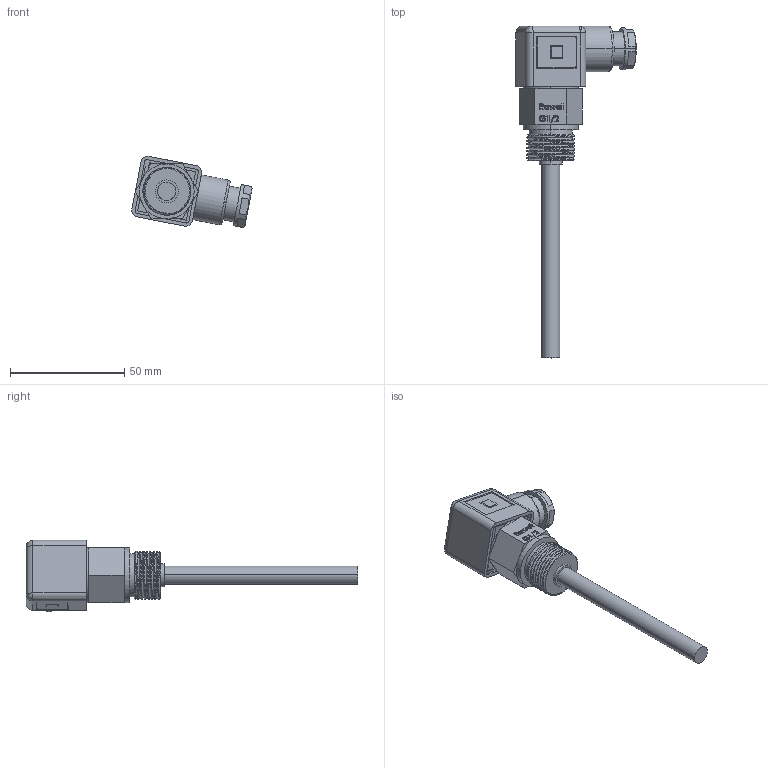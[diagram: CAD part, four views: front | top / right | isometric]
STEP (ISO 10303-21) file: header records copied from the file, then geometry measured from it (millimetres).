
FILE_DESCRIPTION (( 'STEP AP214' ), '1' );
FILE_NAME ('PT31K_8_100.STEP', '2020-07-08T19:43:12', ( '' ), ( '' ), 'SwSTEP 2.0', 'SolidWorks 2013', '' );
FILE_SCHEMA (( 'AUTOMOTIVE_DESIGN' ));
Length unit declared in the file: millimetre
Products named in the file (4): stonek_8_100_HOLY; PT31K_8_100; Matka G1_2__8_PT31K; konektor_DIN
Assembly tree (3 placements, depth 2):
  PT31K_8_100
    Matka G1_2__8_PT31K
    konektor_DIN
    stonek_8_100_HOLY
Bounding box: 52.75 x 145.5 x 31.23 mm (x, y, z)
Volume: 39300 mm3; surface area: 14907.5 mm2
Topology: 3 solids, 3 shells, 405 faces, 1066 edges, 703 vertices
Faces by surface type: plane 259, cylinder 90, bspline 50, cone 6
Entity records: 15899 total; most frequent: CARTESIAN_POINT 6122, ORIENTED_EDGE 2124, DIRECTION 1789, EDGE_CURVE 1062, VECTOR 713, LINE 713, VERTEX_POINT 703, AXIS2_PLACEMENT_3D 538
